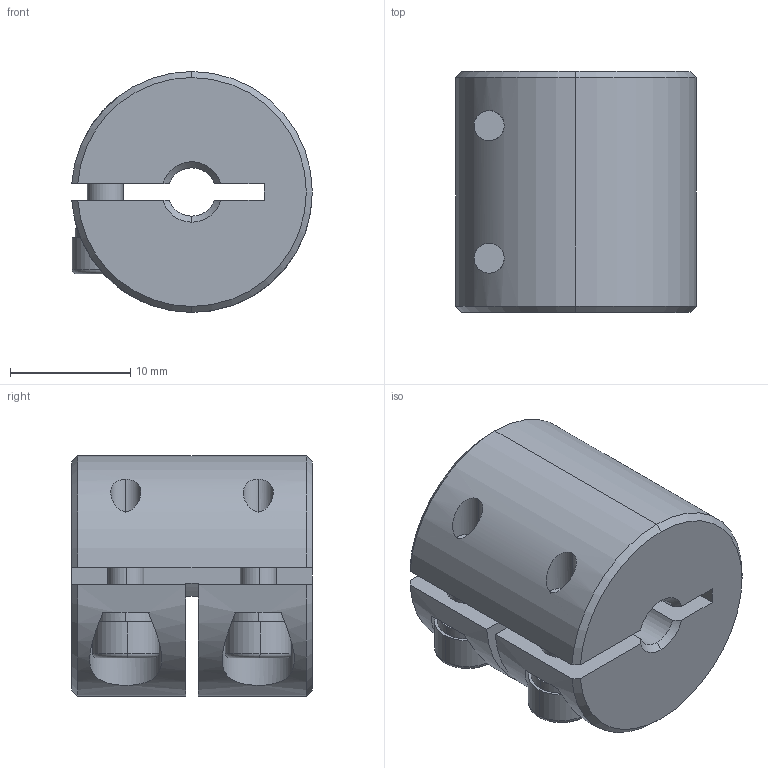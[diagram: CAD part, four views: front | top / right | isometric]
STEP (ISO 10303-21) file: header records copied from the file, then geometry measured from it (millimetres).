
FILE_DESCRIPTION (( 'STEP AP203' ), '1' );
FILE_NAME ('LL-B-D20L20-4-6.35.STEP', '2021-11-03T05:15:22', ( '' ), ( '' ), 'SwSTEP 2.0', 'SolidWorks 2018', '' );
FILE_SCHEMA (( 'CONFIG_CONTROL_DESIGN' ));
Length unit declared in the file: millimetre
Products named in the file (1): LL-B-D20L20-4-6.35
Bounding box: 19.98 x 20 x 20 mm (x, y, z)
Volume: 5303.8 mm3; surface area: 3131.6 mm2
Topology: 1 solids, 1 shells, 115 faces, 298 edges, 187 vertices
Faces by surface type: plane 53, cylinder 42, cone 16, torus 4
Entity records: 3764 total; most frequent: CARTESIAN_POINT 831, DIRECTION 625, ORIENTED_EDGE 588, EDGE_CURVE 294, AXIS2_PLACEMENT_3D 241, VERTEX_POINT 187, LINE 143, VECTOR 143
